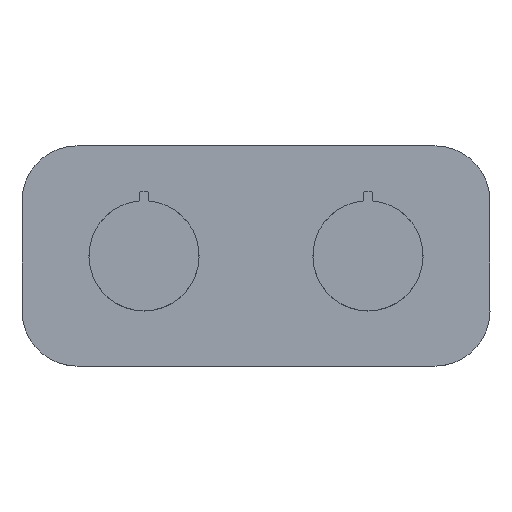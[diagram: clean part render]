
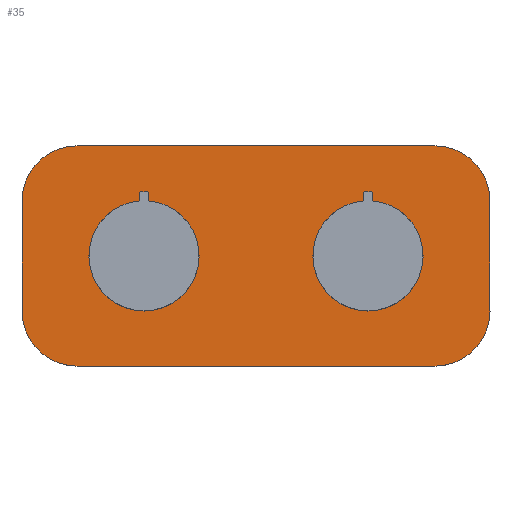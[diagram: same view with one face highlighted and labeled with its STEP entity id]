
A CAD part, top view. The second image highlights one B-rep face of the part: STEP entity #35.
In plain terms, the highlighted planar face has unit normal (0, 0, 1).
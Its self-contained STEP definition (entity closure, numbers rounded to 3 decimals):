
#35 = ADVANCED_FACE('',(#36,#106,#126),#146,.T.);
#36 = FACE_BOUND('',#37,.T.);
#37 = EDGE_LOOP('',(#38,#48,#57,#65,#74,#82,#91,#99));
#38 = ORIENTED_EDGE('',*,*,#39,.T.);
#39 = EDGE_CURVE('',#40,#42,#44,.T.);
#40 = VERTEX_POINT('',#41);
#41 = CARTESIAN_POINT('',(-85.,20.,3.));
#42 = VERTEX_POINT('',#43);
#43 = CARTESIAN_POINT('',(-85.,-20.,3.));
#44 = LINE('',#45,#46);
#45 = CARTESIAN_POINT('',(-85.,20.,3.
    ));
#46 = VECTOR('',#47,1.);
#47 = DIRECTION('',(0.,-1.,0.));
#48 = ORIENTED_EDGE('',*,*,#49,.T.);
#49 = EDGE_CURVE('',#42,#50,#52,.T.);
#50 = VERTEX_POINT('',#51);
#51 = CARTESIAN_POINT('',(-65.,-40.,3.));
#52 = CIRCLE('',#53,20.);
#53 = AXIS2_PLACEMENT_3D('',#54,#55,#56);
#54 = CARTESIAN_POINT('',(-65.,-20.,3.));
#55 = DIRECTION('',(0.,0.,1.));
#56 = DIRECTION('',(0.,-1.,0.));
#57 = ORIENTED_EDGE('',*,*,#58,.T.);
#58 = EDGE_CURVE('',#50,#59,#61,.T.);
#59 = VERTEX_POINT('',#60);
#60 = CARTESIAN_POINT('',(65.,-40.,3.
    ));
#61 = LINE('',#62,#63);
#62 = CARTESIAN_POINT('',(-65.,-40.,3.));
#63 = VECTOR('',#64,1.);
#64 = DIRECTION('',(1.,0.,0.));
#65 = ORIENTED_EDGE('',*,*,#66,.T.);
#66 = EDGE_CURVE('',#59,#67,#69,.T.);
#67 = VERTEX_POINT('',#68);
#68 = CARTESIAN_POINT('',(85.,-20.,3.
    ));
#69 = CIRCLE('',#70,20.);
#70 = AXIS2_PLACEMENT_3D('',#71,#72,#73);
#71 = CARTESIAN_POINT('',(65.,-20.,3.
    ));
#72 = DIRECTION('',(0.,0.,1.));
#73 = DIRECTION('',(0.,-1.,0.));
#74 = ORIENTED_EDGE('',*,*,#75,.T.);
#75 = EDGE_CURVE('',#67,#76,#78,.T.);
#76 = VERTEX_POINT('',#77);
#77 = CARTESIAN_POINT('',(85.,20.,3.
    ));
#78 = LINE('',#79,#80);
#79 = CARTESIAN_POINT('',(85.,-20.,3.)
  );
#80 = VECTOR('',#81,1.);
#81 = DIRECTION('',(0.,1.,0.));
#82 = ORIENTED_EDGE('',*,*,#83,.T.);
#83 = EDGE_CURVE('',#76,#84,#86,.T.);
#84 = VERTEX_POINT('',#85);
#85 = CARTESIAN_POINT('',(65.,40.,3.
    ));
#86 = CIRCLE('',#87,20.);
#87 = AXIS2_PLACEMENT_3D('',#88,#89,#90);
#88 = CARTESIAN_POINT('',(65.,20.,3.
    ));
#89 = DIRECTION('',(0.,0.,1.));
#90 = DIRECTION('',(0.,1.,0.));
#91 = ORIENTED_EDGE('',*,*,#92,.T.);
#92 = EDGE_CURVE('',#84,#93,#95,.T.);
#93 = VERTEX_POINT('',#94);
#94 = CARTESIAN_POINT('',(-65.,40.,3.));
#95 = LINE('',#96,#97);
#96 = CARTESIAN_POINT('',(65.,40.,3.
    ));
#97 = VECTOR('',#98,1.);
#98 = DIRECTION('',(-1.,0.,0.));
#99 = ORIENTED_EDGE('',*,*,#100,.T.);
#100 = EDGE_CURVE('',#93,#40,#101,.T.);
#101 = CIRCLE('',#102,20.);
#102 = AXIS2_PLACEMENT_3D('',#103,#104,#105);
#103 = CARTESIAN_POINT('',(-65.,20.,3.));
#104 = DIRECTION('',(0.,0.,1.));
#105 = DIRECTION('',(0.,1.,0.));
#106 = FACE_BOUND('',#107,.T.);
#107 = EDGE_LOOP('',(#108,#119));
#108 = ORIENTED_EDGE('',*,*,#109,.T.);
#109 = EDGE_CURVE('',#110,#112,#114,.T.);
#110 = VERTEX_POINT('',#111);
#111 = CARTESIAN_POINT('',(20.678,0.,
    3.));
#112 = VERTEX_POINT('',#113);
#113 = CARTESIAN_POINT('',(60.678,0.,
    3.));
#114 = CIRCLE('',#115,20.);
#115 = AXIS2_PLACEMENT_3D('',#116,#117,#118);
#116 = CARTESIAN_POINT('',(40.678,0.,
    3.));
#117 = DIRECTION('',(0.,0.,-1.));
#118 = DIRECTION('',(1.,0.,0.));
#119 = ORIENTED_EDGE('',*,*,#120,.T.);
#120 = EDGE_CURVE('',#112,#110,#121,.T.);
#121 = CIRCLE('',#122,20.);
#122 = AXIS2_PLACEMENT_3D('',#123,#124,#125);
#123 = CARTESIAN_POINT('',(40.678,0.,
    3.));
#124 = DIRECTION('',(0.,0.,-1.));
#125 = DIRECTION('',(1.,0.,0.));
#126 = FACE_BOUND('',#127,.T.);
#127 = EDGE_LOOP('',(#128,#139));
#128 = ORIENTED_EDGE('',*,*,#129,.T.);
#129 = EDGE_CURVE('',#130,#132,#134,.T.);
#130 = VERTEX_POINT('',#131);
#131 = CARTESIAN_POINT('',(-60.678,0.,
    3.));
#132 = VERTEX_POINT('',#133);
#133 = CARTESIAN_POINT('',(-20.678,0.,
    3.));
#134 = CIRCLE('',#135,20.);
#135 = AXIS2_PLACEMENT_3D('',#136,#137,#138);
#136 = CARTESIAN_POINT('',(-40.678,0.,
    3.));
#137 = DIRECTION('',(0.,0.,-1.));
#138 = DIRECTION('',(-1.,0.,0.));
#139 = ORIENTED_EDGE('',*,*,#140,.T.);
#140 = EDGE_CURVE('',#132,#130,#141,.T.);
#141 = CIRCLE('',#142,20.);
#142 = AXIS2_PLACEMENT_3D('',#143,#144,#145);
#143 = CARTESIAN_POINT('',(-40.678,0.,
    3.));
#144 = DIRECTION('',(0.,0.,-1.));
#145 = DIRECTION('',(-1.,0.,0.));
#146 = PLANE('',#147);
#147 = AXIS2_PLACEMENT_3D('',#148,#149,#150);
#148 = CARTESIAN_POINT('',(-85.,-45.,3.));
#149 = DIRECTION('',(0.,0.,1.));
#150 = DIRECTION('',(0.,-1.,0.));
